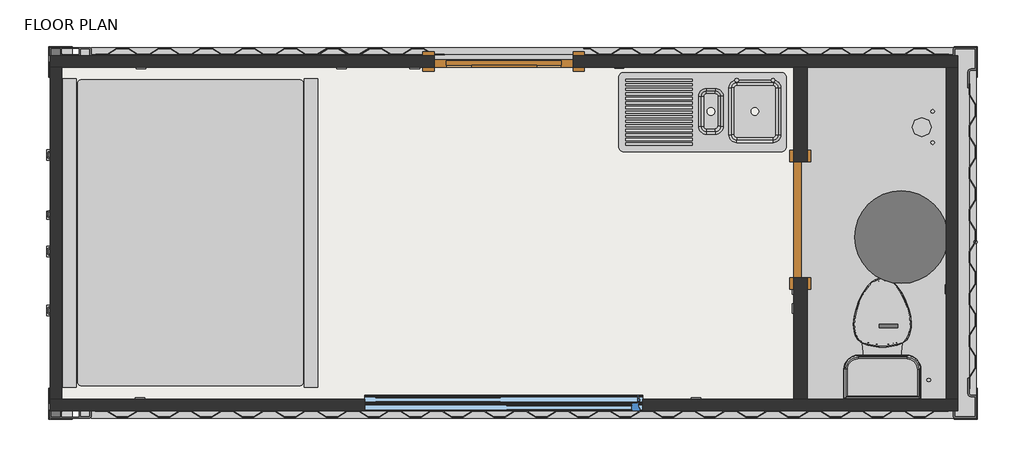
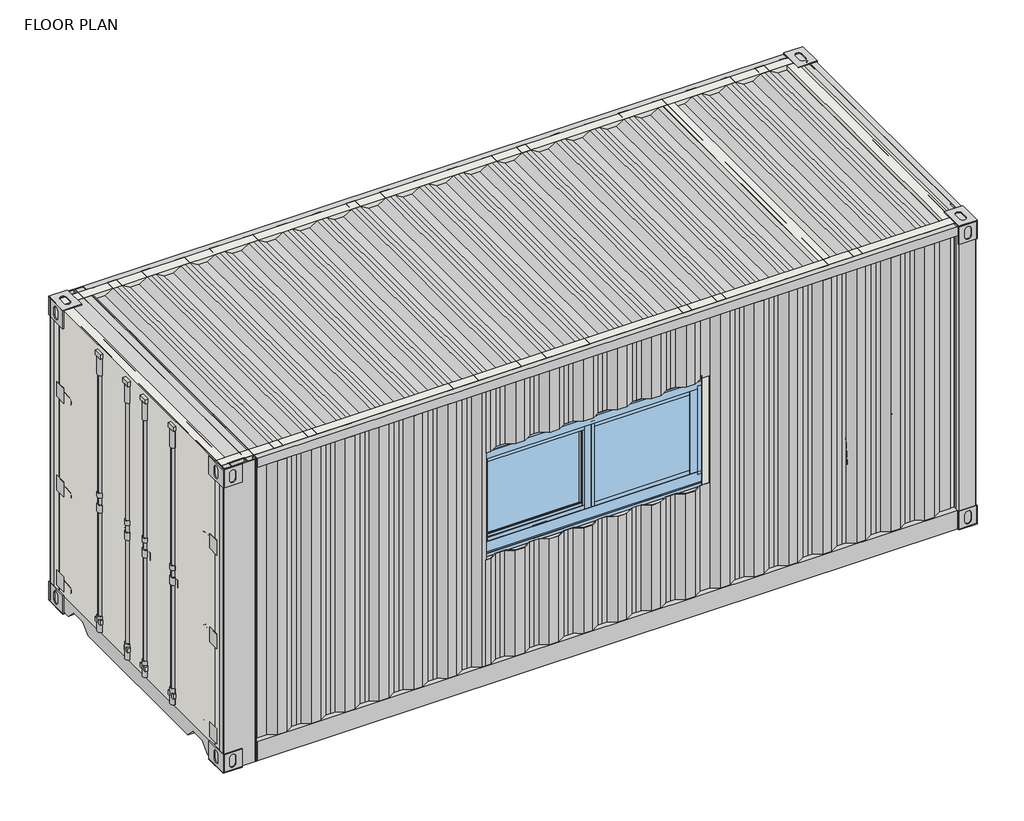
# One storey: 11 flow terminals, 11 proxies, 5 walls, 2 doors, 1 covering, 1 furniture element, 1 window.
"""IFC4 building model written with IfcOpenShell, lengths in millimetres."""

from ifc_helpers import new_model, si_unit, frame, origin, origin_with_axes, place, context, project, spatial, polyline, outline, extrude, faceted_brep, transform, mapped, element, save
from components import proxy_20ft_shipping_container_15218_shipping_container_20ft_9ec7a6ed, proxy_20ft_shipping_container_15218_shipping_container_20ft_b15c6e50, proxy_20ft_shipping_container_15218_shipping_container_20ft_651b6a02, duplex_0637b5cd, fan_standard_44934c07, outlet_gfi_single_5668d69b, switch_6976cb85, single_decorative_sg10_external_door_front_c3bac1d7, door_96857f77, flow_terminal_1_5_sink_double_bowl_w_drainboard_both_sides_b46aa2b9, flow_terminal_accce45a, pipe_connector_domestic_cold_water_plumbing_fixtures_790c04ce, toilet_domestic_3d_toilet_domestic_3d_f7549cf7, toilet_domestic_3d_toilet_domestic_3d_183bbd19, water_heater_water_heater_e0cc5f81, queen_bed_97955085, series_950_13ffbd45

model = new_model("IFC4")

# Units and contexts
model_context = context("Model", 3, world=origin())
ifc_project = project(units=[si_unit("LENGTHUNIT", "METRE", prefix="MILLI")], contexts=[model_context])

# Site, building, storey
site = spatial("IfcSite", under=ifc_project)
building = spatial("IfcBuilding", under=site)
storey = spatial("IfcBuildingStorey", under=building, Name="FLOOR PLAN", Elevation=0.0)

# Proxies
placement = place(None, origin())
proxy_20ft_shipping_container_15218_shipping_container_20ft_shape = proxy_20ft_shipping_container_15218_shipping_container_20ft_9ec7a6ed(model_context)
proxy_20ft_shipping_container_15218_shipping_container_20ft_2_shape = proxy_20ft_shipping_container_15218_shipping_container_20ft_b15c6e50(model_context)
proxy_20ft_shipping_container_15218_shipping_container_20ft_3_shape = proxy_20ft_shipping_container_15218_shipping_container_20ft_651b6a02(model_context)
element("IfcBuildingElementProxy", 1, Name="20ft_Shipping_Container_15218 : Shipping Container - 20ft", ObjectType="20ft_Shipping_Container_15218 : Shipping Container - 20ft", at=placement, inside=storey, context=model_context, shape_type="MappedRepresentation", body=[
    mapped(proxy_20ft_shipping_container_15218_shipping_container_20ft_shape, transform((40569.0787962, 344996.6029935, -152.4), x_axis=(1.0, 0.0, 0.0), y_axis=(0.0, 1.0, 0.0), z_axis=(0.0, 0.0, 1.0))),
    mapped(proxy_20ft_shipping_container_15218_shipping_container_20ft_2_shape, transform((40569.0787962, 344996.6029935, -152.4), x_axis=(1.0, 0.0, 0.0), y_axis=(0.0, 1.0, 0.0), z_axis=(0.0, 0.0, 1.0))),
    mapped(proxy_20ft_shipping_container_15218_shipping_container_20ft_3_shape, transform((40569.0787962, 344996.6029935, -152.4), x_axis=(1.0, 0.0, 0.0), y_axis=(0.0, 1.0, 0.0), z_axis=(0.0, 0.0, 1.0))),
])
duplex_shape = duplex_0637b5cd(model_context)
element("IfcBuildingElementProxy", 2, Name="MAVRIK - ELEC - RECEPTACLE - WALL BASED : DUPLEX", ObjectType="MAVRIK - ELEC - RECEPTACLE - WALL BASED : DUPLEX", at=placement, inside=storey, context=model_context, shape_type="MappedRepresentation", body=[
    mapped(duplex_shape, transform((38704.5600462, 343863.1826428, 0.0), x_axis=(1.0, 0.0, 0.0), y_axis=(0.0, 1.0, 0.0), z_axis=(0.0, 0.0, 1.0))),
])
element("IfcBuildingElementProxy", 3, Name="MAVRIK - ELEC - RECEPTACLE - WALL BASED : DUPLEX", ObjectType="MAVRIK - ELEC - RECEPTACLE - WALL BASED : DUPLEX", at=placement, inside=storey, context=model_context, shape_type="MappedRepresentation", body=[
    mapped(duplex_shape, transform((35046.9600462, 343863.1826428, 0.0), x_axis=(1.0, 0.0, 0.0), y_axis=(0.0, 1.0, 0.0), z_axis=(0.0, 0.0, 1.0))),
])
element("IfcBuildingElementProxy", 4, Name="MAVRIK - ELEC - RECEPTACLE - WALL BASED : DUPLEX", ObjectType="MAVRIK - ELEC - RECEPTACLE - WALL BASED : DUPLEX", at=placement, inside=storey, context=model_context, shape_type="MappedRepresentation", body=[
    mapped(duplex_shape, transform((35092.9975462, 346123.7826428, 0.0), x_axis=(-1.0, 0.0, 0.0), y_axis=(0.0, -1.0, 0.0), z_axis=(0.0, 0.0, 1.0))),
])
fan_standard_shape = fan_standard_44934c07(model_context)
element("IfcBuildingElementProxy", 5, Name="Fan : Standard", ObjectType="Fan : Standard", at=placement, inside=storey, context=model_context, shape_type="MappedRepresentation", body=[
    mapped(fan_standard_shape, transform((39990.8775268, 344395.9786702, 1219.2), x_axis=(-1.0, 0.0, 0.0), y_axis=(0.0, 0.0, 1.0), z_axis=(0.0, 1.0, 0.0))),
])
outlet_gfi_single_shape = outlet_gfi_single_5668d69b(model_context)
element("IfcBuildingElementProxy", 6, Name="Outlet-GFI : Single", ObjectType="Outlet-GFI : Single", at=placement, inside=storey, context=model_context, shape_type="MappedRepresentation", body=[
    mapped(outlet_gfi_single_shape, transform((38219.5787962, 346123.7826428, 0.0), x_axis=(-1.0, 0.0, 0.0), y_axis=(0.0, -1.0, 0.0), z_axis=(0.0, 0.0, 1.0))),
])
element("IfcBuildingElementProxy", 7, Name="Outlet-GFI : Single", ObjectType="Outlet-GFI : Single", at=placement, inside=storey, context=model_context, shape_type="MappedRepresentation", body=[
    mapped(outlet_gfi_single_shape, transform((40407.1537962, 344625.1826428, 0.0), x_axis=(0.0, 1.0, 0.0), y_axis=(-1.0, 0.0, 0.0), z_axis=(0.0, 0.0, 1.0))),
])
element("IfcBuildingElementProxy", 8, Name="MAVRIK - ELEC - RECEPTACLE - WALL BASED : SWITCH", ObjectType="MAVRIK - ELEC - RECEPTACLE - WALL BASED : SWITCH", at=placement, inside=storey, context=model_context, shape_type="MappedRepresentation", body=[
    mapped(duplex_shape, transform((36410.6225462, 346123.7826428, 0.0), x_axis=(-1.0, 0.0, 0.0), y_axis=(0.0, -1.0, 0.0), z_axis=(0.0, 0.0, 1.0))),
])
element("IfcBuildingElementProxy", 9, Name="MAVRIK - ELEC - RECEPTACLE - WALL BASED : SWITCH", ObjectType="MAVRIK - ELEC - RECEPTACLE - WALL BASED : SWITCH", at=placement, inside=storey, context=model_context, shape_type="MappedRepresentation", body=[
    mapped(duplex_shape, transform((36893.2225462, 346123.7826428, 0.0), x_axis=(-1.0, 0.0, 0.0), y_axis=(0.0, -1.0, 0.0), z_axis=(0.0, 0.0, 1.0))),
])
switch_shape = switch_6976cb85(model_context)
element("IfcBuildingElementProxy", 10, Name="MAVRIK - ELEC - RECEPTACLE - WALL BASED : SWITCH", ObjectType="MAVRIK - ELEC - RECEPTACLE - WALL BASED : SWITCH", at=placement, inside=storey, context=model_context, shape_type="MappedRepresentation", body=[
    mapped(switch_shape, transform((39410.2037962, 344605.3388928, 0.0), x_axis=(0.0, 1.0, 0.0), y_axis=(-1.0, 0.0, 0.0), z_axis=(0.0, 0.0, 1.0))),
])
element("IfcBuildingElementProxy", 11, Name="MAVRIK - ELEC - RECEPTACLE - WALL BASED : SWITCH", ObjectType="MAVRIK - ELEC - RECEPTACLE - WALL BASED : SWITCH", at=placement, inside=storey, context=model_context, shape_type="MappedRepresentation", body=[
    mapped(switch_shape, transform((39410.2037962, 344478.3388928, 0.0), x_axis=(0.0, 1.0, 0.0), y_axis=(-1.0, 0.0, 0.0), z_axis=(0.0, 0.0, 1.0))),
])

# Covering
element("IfcCovering", 12, ObjectType="GWB ON 3 5/8\" STRUCTURE", at=placement, inside=storey, context=model_context, shape_type="SweptSolid", body=[
    extrude(outline(polyline([(39365.7537962, 346085.6826428), (39365.7537962, 343901.2826428), (34552.4537962, 343901.2826428), (34552.4537962, 346085.6826428), (39365.7537962, 346085.6826428)])), origin_with_axes(), (0.0, 0.0, 1.0), 50.8),
])

# Doors
single_decorative_sg10_external_door_front_shape = single_decorative_sg10_external_door_front_c3bac1d7(model_context)
element("IfcDoor", 13, ObjectType="Single-Decorative - SG10 : External Door - Front", at=placement, inside=storey, context=model_context, shape_type="MappedRepresentation", body=[
    mapped(single_decorative_sg10_external_door_front_shape, transform((37457.5787962, 346123.7826428, 0.0), x_axis=(1.0, 0.0, 0.0), y_axis=(0.0, 1.0, 0.0), z_axis=(0.0, 0.0, 1.0))),
])
door_shape = door_96857f77(model_context)
element("IfcDoor", 14, ObjectType="Single-Flush : 32\" x 84\"", at=placement, inside=storey, context=model_context, shape_type="MappedRepresentation", body=[
    mapped(door_shape, transform((39410.2037962, 345082.3826428, 12.7), x_axis=(0.0, 1.0, 0.0), y_axis=(-1.0, 0.0, 0.0), z_axis=(0.0, 0.0, 1.0))),
])

# Flow terminals
flow_terminal_1_5_sink_double_bowl_w_drainboard_both_sides_shape = flow_terminal_1_5_sink_double_bowl_w_drainboard_both_sides_b46aa2b9(model_context)
element("IfcFlowTerminal", 15, ObjectType="1.5 sink : Double Bowl w Drainboard both sides", at=placement, inside=storey, context=model_context, shape_type="MappedRepresentation", body=[
    mapped(flow_terminal_1_5_sink_double_bowl_w_drainboard_both_sides_shape, transform((38930.9376698, 345790.7884915, 0.0), x_axis=(-1.0, 0.0, 0.0), y_axis=(0.0, -1.0, 0.0), z_axis=(0.0, 0.0, 1.0))),
])
flow_terminal_shape = flow_terminal_accce45a(model_context)
element("IfcFlowTerminal", 16, ObjectType="Floor Drain - Round : 5\" Strainer - 2\" Drain", at=placement, inside=storey, context=model_context, shape_type="MappedRepresentation", body=[
    mapped(flow_terminal_shape, transform((40208.7162962, 345691.9826428, 55.8203507), x_axis=(1.0, 0.0, 0.0), y_axis=(0.0, 1.0, 0.0), z_axis=(0.0, 0.0, 1.0))),
])
pipe_connector_domestic_cold_water_plumbing_fixtures_shape = pipe_connector_domestic_cold_water_plumbing_fixtures_790c04ce(model_context)
element("IfcFlowTerminal", 17, ObjectType="Pipe Connector - Domestic Cold Water - Plumbing Fixtures : Standard", at=placement, inside=storey, context=model_context, shape_type="MappedRepresentation", body=[
    mapped(pipe_connector_domestic_cold_water_plumbing_fixtures_shape, transform((40254.7537962, 344028.2826428, 15.8203507), x_axis=(1.0, 0.0, 0.0), y_axis=(0.0, 1.0, 0.0), z_axis=(0.0, 0.0, 1.0))),
])
element("IfcFlowTerminal", 18, ObjectType="Pipe Connector - Domestic Cold Water - Plumbing Fixtures : Standard", at=placement, inside=storey, context=model_context, shape_type="MappedRepresentation", body=[
    mapped(pipe_connector_domestic_cold_water_plumbing_fixtures_shape, transform((40280.1537962, 345795.6050536, 55.8203507), x_axis=(1.0, 0.0, 0.0), y_axis=(0.0, 1.0, 0.0), z_axis=(0.0, 0.0, 1.0))),
])
element("IfcFlowTerminal", 19, ObjectType="Pipe Connector - Domestic Cold Water - Plumbing Fixtures : Standard", at=placement, inside=storey, context=model_context, shape_type="MappedRepresentation", body=[
    mapped(pipe_connector_domestic_cold_water_plumbing_fixtures_shape, transform((38991.2984292, 346000.6050536, 912.7), x_axis=(1.0, 0.0, 0.0), y_axis=(0.0, 1.0, 0.0), z_axis=(0.0, 0.0, 1.0))),
])
element("IfcFlowTerminal", 20, ObjectType="Pipe Connector - Domestic Hot Water - Plumbing Fixtures : Standard", at=placement, inside=storey, context=model_context, shape_type="MappedRepresentation", body=[
    mapped(pipe_connector_domestic_cold_water_plumbing_fixtures_shape, transform((39230.6484292, 346000.6050536, 912.7), x_axis=(1.0, 0.0, 0.0), y_axis=(0.0, 1.0, 0.0), z_axis=(0.0, 0.0, 1.0))),
])
element("IfcFlowTerminal", 21, ObjectType="Pipe Connector - Domestic Hot Water - Plumbing Fixtures : Standard", at=placement, inside=storey, context=model_context, shape_type="MappedRepresentation", body=[
    mapped(pipe_connector_domestic_cold_water_plumbing_fixtures_shape, transform((40280.1537962, 345590.3826428, 55.8203507), x_axis=(1.0, 0.0, 0.0), y_axis=(0.0, 1.0, 0.0), z_axis=(0.0, 0.0, 1.0))),
])
element("IfcFlowTerminal", 22, ObjectType="Pipe Connector - Domestic Hot Water - Plumbing Fixtures : Standard", at=placement, inside=storey, context=model_context, shape_type="MappedRepresentation", body=[
    mapped(pipe_connector_domestic_cold_water_plumbing_fixtures_shape, transform((40562.7287962, 344937.1682584, 0.0), x_axis=(1.0, 0.0, 0.0), y_axis=(0.0, 1.0, 0.0), z_axis=(0.0, 0.0, 1.0))),
])
element("IfcFlowTerminal", 23, ObjectType="Pipe Connector - Sanitary - Plumbing Fixtures : Standard", at=placement, inside=storey, context=model_context, shape_type="MappedRepresentation", body=[
    mapped(pipe_connector_domestic_cold_water_plumbing_fixtures_shape, transform((39968.5478867, 344002.8826428, 15.8203507), x_axis=(1.0, 0.0, 0.0), y_axis=(0.0, 1.0, 0.0), z_axis=(0.0, 0.0, 1.0))),
])
toilet_domestic_3d_toilet_domestic_3d_shape = toilet_domestic_3d_toilet_domestic_3d_f7549cf7(model_context)
toilet_domestic_3d_toilet_domestic_3d_2_shape = toilet_domestic_3d_toilet_domestic_3d_183bbd19(model_context)
element("IfcFlowTerminal", 24, ObjectType="Toilet-Domestic-3D : Toilet-Domestic-3D", at=placement, inside=storey, context=model_context, shape_type="MappedRepresentation", body=[
    mapped(toilet_domestic_3d_toilet_domestic_3d_shape, transform((39949.9537962, 344395.9786702, 0.0), x_axis=(-1.0, 0.0, 0.0), y_axis=(0.0, -1.0, 0.0), z_axis=(0.0, 0.0, 1.0))),
    mapped(toilet_domestic_3d_toilet_domestic_3d_2_shape, transform((39949.9537962, 344395.9786702, 0.0), x_axis=(-1.0, 0.0, 0.0), y_axis=(0.0, -1.0, 0.0), z_axis=(0.0, 0.0, 1.0))),
])
water_heater_water_heater_shape = water_heater_water_heater_e0cc5f81(model_context)
element("IfcFlowTerminal", 25, ObjectType="Water Heater : Water Heater", at=placement, inside=storey, context=model_context, shape_type="MappedRepresentation", body=[
    mapped(water_heater_water_heater_shape, transform((40073.8953088, 344968.0826428, 0.0), x_axis=(1.0, 0.0, 0.0), y_axis=(0.0, 1.0, 0.0), z_axis=(0.0, 0.0, 1.0))),
])

# Furniture
queen_bed_shape = queen_bed_97955085(model_context)
element("IfcFurniture", 26, ObjectType="Ikea_Malm_queen_bed_with_end_tables_2574 : queen_bed", at=placement, inside=storey, context=model_context, shape_type="MappedRepresentation", body=[
    mapped(queen_bed_shape, transform((35397.0037962, 344402.9326428, 592.4089346), x_axis=(0.9999999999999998, 0.0, 0.0), y_axis=(0.0, 0.9999999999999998, 0.0), z_axis=(0.0, 0.0, 1.0))),
])

# Walls
element("IfcWall", 27, ObjectType="INTERIOR", at=placement, inside=storey, context=model_context, shape_type="SweptSolid", body=[
    extrude(outline(polyline([(346085.6826428, 0.0), (343901.2826428, 0.0), (343901.2826428, 2444.75), (346085.6826428, 2444.75), (346085.6826428, 0.0)]), holes=[polyline([(345463.3826428, 12.7), (345463.3826428, 2146.3), (344701.3826428, 2146.3), (344701.3826428, 12.7), (345463.3826428, 12.7)])]), frame((39365.7537962, 0.0, 0.0), z_axis=(1.0, 0.0, 0.0), x_axis=(0.0, 1.0, 0.0)), (0.0, 0.0, 1.0), 88.9),
])
element("IfcWall", 28, ObjectType="Wall 1", at=placement, inside=storey, context=model_context, shape_type="Brep", body=[
    faceted_brep([(34476.2537962, 343825.0826428, 0.0), (40445.2537962, 343825.0826428, 0.0), (40445.2537962, 343825.0826428, 2444.75), (34476.2537962, 343825.0826428, 2444.75), (36543.1787962, 343825.0826428, 914.4), (36543.1787962, 343825.0826428, 1858.0893895), (38371.9787962, 343825.0826428, 1858.0893895), (38371.9787962, 343825.0826428, 914.4), (40445.2537962, 343901.2826428, 0.0), (40369.0537962, 343901.2826428, 0.0), (39454.6537962, 343901.2826428, 0.0), (39365.7537962, 343901.2826428, 0.0), (34552.4537962, 343901.2826428, 0.0), (34476.2537962, 343901.2826428, 0.0), (34476.2537962, 343901.2826428, 2444.75), (34552.4537962, 343901.2826428, 2444.75), (39365.7537962, 343901.2826428, 2444.75), (39454.6537962, 343901.2826428, 2444.75), (40369.0537962, 343901.2826428, 2444.75), (40445.2537962, 343901.2826428, 2444.75), (36543.1787962, 343901.2826428, 1858.0893895), (36543.1787962, 343901.2826428, 914.4), (38371.9787962, 343901.2826428, 914.4), (38371.9787962, 343901.2826428, 1858.0893895)], [[[0, 1, 2, 3], [4, 5, 6, 7]], [[8, 9, 10, 11, 12, 13, 14, 15, 16, 17, 18, 19], [20, 21, 22, 23]], [[1, 0, 13, 12, 11, 10, 9, 8]], [[3, 2, 19, 18, 17, 16, 15, 14]], [[0, 3, 14, 13]], [[2, 1, 8, 19]], [[20, 5, 4, 21]], [[21, 4, 7, 22]], [[22, 7, 6, 23]], [[5, 20, 23, 6]]]),
])
element("IfcWall", 29, ObjectType="Wall 1", at=placement, inside=storey, context=model_context, shape_type="Brep", body=[
    faceted_brep([(40445.2537962, 346085.6826428, 2444.75), (40369.0537962, 346085.6826428, 2444.75), (39454.6537962, 346085.6826428, 2444.75), (39365.7537962, 346085.6826428, 2444.75), (34552.4537962, 346085.6826428, 2444.75), (34476.2537962, 346085.6826428, 2444.75), (34476.2537962, 346085.6826428, 0.0), (34552.4537962, 346085.6826428, 0.0), (37000.3787962, 346085.6826428, 0.0), (37000.3787962, 346085.6826428, 2133.6), (37914.7787962, 346085.6826428, 2133.6), (37914.7787962, 346085.6826428, 0.0), (39365.7537962, 346085.6826428, 0.0), (39454.6537962, 346085.6826428, 0.0), (40369.0537962, 346085.6826428, 0.0), (40445.2537962, 346085.6826428, 0.0), (34476.2537962, 346161.8826428, 2444.75), (40445.2537962, 346161.8826428, 2444.75), (40445.2537962, 346161.8826428, 0.0), (37914.7787962, 346161.8826428, 0.0), (37914.7787962, 346161.8826428, 2133.6), (37000.3787962, 346161.8826428, 2133.6), (37000.3787962, 346161.8826428, 0.0), (34476.2537962, 346161.8826428, 0.0)], [[[0, 1, 2, 3, 4, 5, 6, 7, 8, 9, 10, 11, 12, 13, 14, 15]], [[16, 17, 18, 19, 20, 21, 22, 23]], [[6, 23, 22, 8, 7]], [[18, 15, 14, 13, 12, 11, 19]], [[5, 4, 3, 2, 1, 0, 17, 16]], [[6, 5, 16, 23]], [[0, 15, 18, 17]], [[10, 20, 19, 11]], [[20, 10, 9, 21]], [[21, 9, 8, 22]]]),
])
element("IfcWall", 30, ObjectType="Wall 1", at=placement, inside=storey, context=model_context, shape_type="SweptSolid", body=[
    extrude(outline(polyline([(34476.2537962, 343901.2826428), (34476.2537962, 346085.6826428), (34552.4537962, 346085.6826428), (34552.4537962, 343901.2826428), (34476.2537962, 343901.2826428)])), origin_with_axes(), (0.0, 0.0, 1.0), 2444.75),
])
element("IfcWall", 31, ObjectType="Wall 1", at=placement, inside=storey, context=model_context, shape_type="SweptSolid", body=[
    extrude(outline(polyline([(40369.0537962, 343901.2826428), (40369.0537962, 346085.6826428), (40445.2537962, 346085.6826428), (40445.2537962, 343901.2826428), (40369.0537962, 343901.2826428)])), origin_with_axes(), (0.0, 0.0, 1.0), 2444.75),
])

# Window
series_950_shape = series_950_13ffbd45(model_context)
element("IfcWindow", 32, ObjectType="Window-Boyd_Aluminum-Slider-950_Series : Series 950", at=placement, inside=storey, context=model_context, shape_type="MappedRepresentation", body=[
    mapped(series_950_shape, transform((37457.5787962, 343863.1826428, 0.0), x_axis=(-1.0, 0.0, 0.0), y_axis=(0.0, -1.0, 0.0), z_axis=(0.0, 0.0, 1.0))),
])

save(model, "model.ifc")
